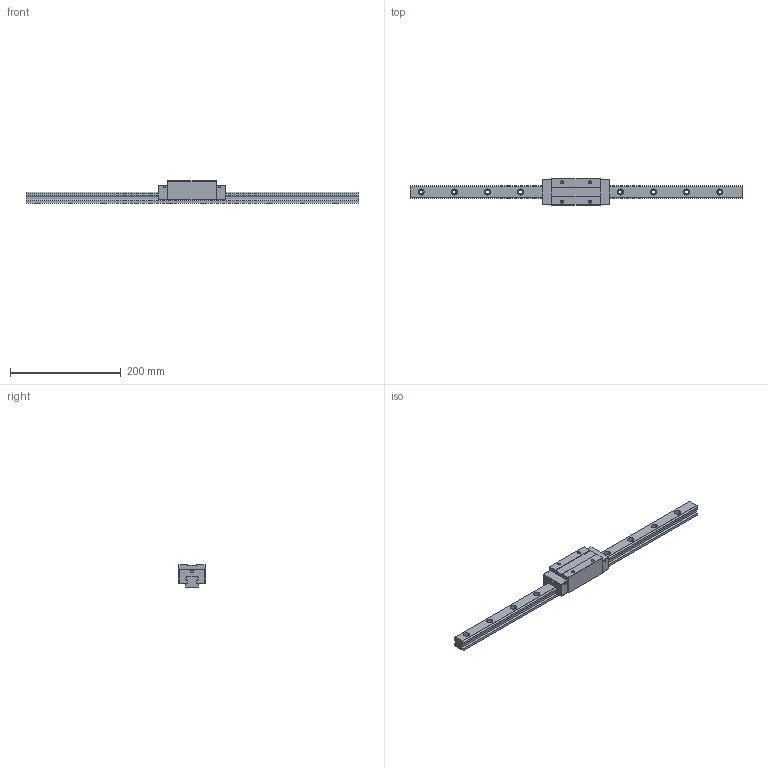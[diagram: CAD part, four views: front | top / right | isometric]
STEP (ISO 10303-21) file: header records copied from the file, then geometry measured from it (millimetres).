
FILE_DESCRIPTION (( 'STEP AP203' ), '1' );
FILE_NAME ('TRH25VE-WW.STEP', '2024-05-16T00:57:36', ( '' ), ( '' ), 'SwSTEP 2.0', 'SolidWorks 2022', '' );
FILE_SCHEMA (( 'CONFIG_CONTROL_DESIGN' ));
Length unit declared in the file: millimetre
Products named in the file (1): TRH25VE-WW
Bounding box: 600 x 48 x 40 mm (x, y, z)
Volume: 383120.5 mm3; surface area: 85621.4 mm2
Topology: 2 solids, 2 shells, 200 faces, 520 edges, 336 vertices
Faces by surface type: cylinder 96, plane 88, cone 16
Entity records: 6223 total; most frequent: DIRECTION 1114, CARTESIAN_POINT 1049, ORIENTED_EDGE 1024, EDGE_CURVE 512, AXIS2_PLACEMENT_3D 401, VERTEX_POINT 336, LINE 312, VECTOR 312
